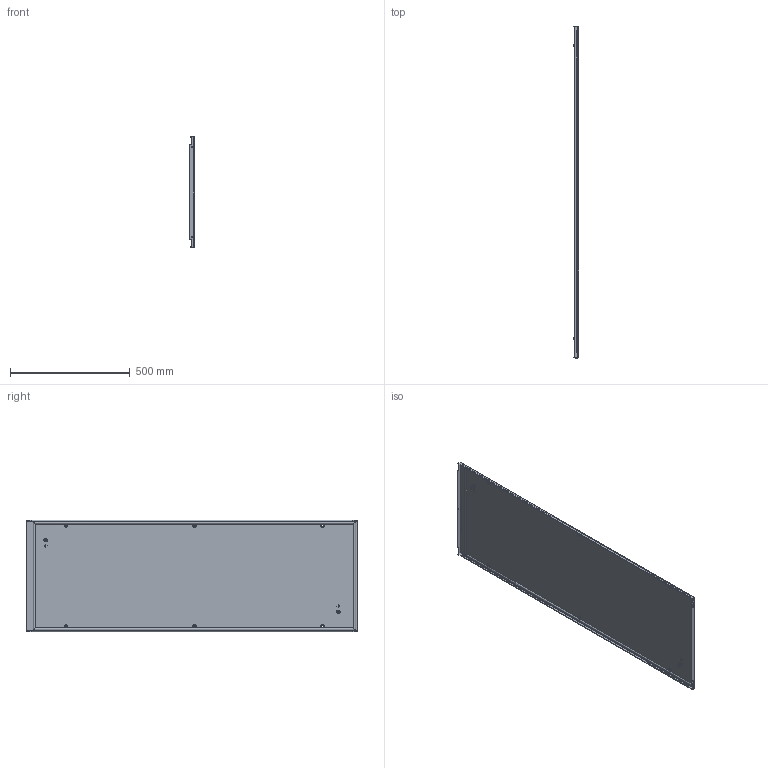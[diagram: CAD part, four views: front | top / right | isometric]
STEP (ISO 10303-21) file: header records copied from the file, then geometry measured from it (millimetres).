
FILE_DESCRIPTION (( 'STEP AP203' ), '1' );
FILE_NAME ('p2cs145.STEP', '2016-02-15T21:59:35', ( '' ), ( '' ), 'SwSTEP 2.0', 'SolidWorks 2014', '' );
FILE_SCHEMA (( 'CONFIG_CONTROL_DESIGN' ));
Length unit declared in the file: millimetre
Products named in the file (8): p2cs145; 89127253_2000x600; 87931527_87931527; 87931368_SLEEVE; 60100041_60100041; 89127223; 89127333_89122591; 89127193
Assembly tree (8 placements, depth 5):
  p2cs145
    89127193
      89127223
        89127253_2000x600
        60100041_60100041  x2
          87931527_87931527
          87931368_SLEEVE
      89127333_89122591
Bounding box: 23.2 x 1383 x 464 mm (x, y, z)
Volume: 1131435.6 mm3; surface area: 1533097.3 mm2
Topology: 6 solids, 6 shells, 344 faces, 808 edges, 492 vertices
Faces by surface type: plane 190, cylinder 60, cone 48, torus 24, bspline 22
Entity records: 10175 total; most frequent: CARTESIAN_POINT 2885, ORIENTED_EDGE 1322, DIRECTION 1315, EDGE_CURVE 661, AXIS2_PLACEMENT_3D 440, VECTOR 435, LINE 435, VERTEX_POINT 404
